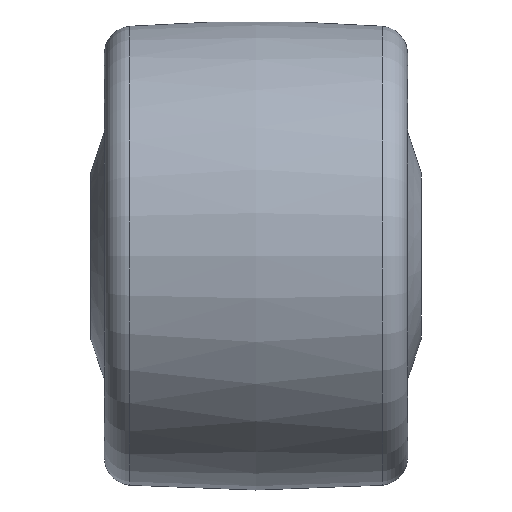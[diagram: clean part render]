
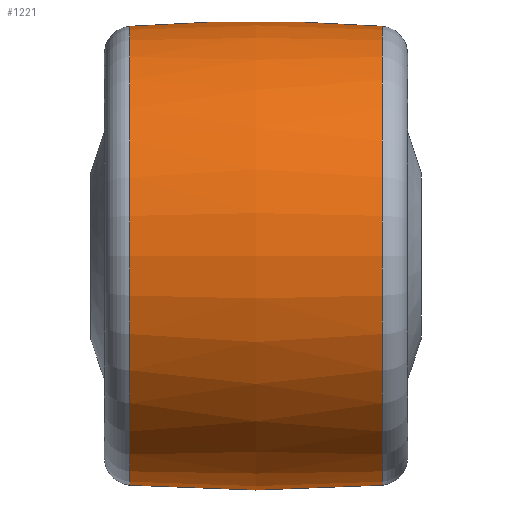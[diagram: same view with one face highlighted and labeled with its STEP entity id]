
A CAD part, front view. The second image highlights one B-rep face of the part: STEP entity #1221.
In plain terms, the highlighted free-form (B-spline) face has degree [2, 2] with [3, 9] control points.
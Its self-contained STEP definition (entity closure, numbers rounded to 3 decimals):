
#49=(
BOUNDED_SURFACE()
B_SPLINE_SURFACE(2,2,((#2152,#2153,#2154,#2155,#2156,#2157,#2158,#2159,
#2160),(#2161,#2162,#2163,#2164,#2165,#2166,#2167,#2168,#2169),(#2170,#2171,
#2172,#2173,#2174,#2175,#2176,#2177,#2178)),.UNSPECIFIED.,.F.,.T.,.F.)
B_SPLINE_SURFACE_WITH_KNOTS((3,3),(3,2,2,2,3),(-0.076,0.076),
(-3.142,-1.571,0.,1.571,3.142),
 .UNSPECIFIED.)
GEOMETRIC_REPRESENTATION_ITEM()
RATIONAL_B_SPLINE_SURFACE(((1.,0.707,1.,0.707,1.,
0.707,1.,0.707,1.),(0.997,0.705,
0.997,0.705,0.997,0.705,
0.997,0.705,0.997),(1.,0.707,
1.,0.707,1.,0.707,1.,0.707,1.)))
REPRESENTATION_ITEM('')
SURFACE()
);
#250=FACE_OUTER_BOUND('',#329,.T.);
#329=EDGE_LOOP('',(#951,#952,#953,#954,#955,#956));
#434=CIRCLE('',#1403,41.626);
#435=CIRCLE('',#1404,41.626);
#437=CIRCLE('',#1406,41.626);
#438=CIRCLE('',#1407,41.626);
#439=CIRCLE('',#1408,300.);
#570=VERTEX_POINT('',#2147);
#571=VERTEX_POINT('',#2148);
#572=VERTEX_POINT('',#2179);
#573=VERTEX_POINT('',#2180);
#726=EDGE_CURVE('',#570,#571,#434,.T.);
#727=EDGE_CURVE('',#571,#570,#435,.T.);
#729=EDGE_CURVE('',#572,#573,#437,.T.);
#730=EDGE_CURVE('',#573,#572,#438,.T.);
#731=EDGE_CURVE('',#573,#571,#439,.T.);
#951=ORIENTED_EDGE('',*,*,#729,.F.);
#952=ORIENTED_EDGE('',*,*,#730,.F.);
#953=ORIENTED_EDGE('',*,*,#731,.T.);
#954=ORIENTED_EDGE('',*,*,#727,.T.);
#955=ORIENTED_EDGE('',*,*,#726,.T.);
#956=ORIENTED_EDGE('',*,*,#731,.F.);
#1221=ADVANCED_FACE('',(#250),#49,.F.);
#1403=AXIS2_PLACEMENT_3D('',#2149,#1698,#1699);
#1404=AXIS2_PLACEMENT_3D('',#2150,#1700,#1701);
#1406=AXIS2_PLACEMENT_3D('',#2181,#1704,#1705);
#1407=AXIS2_PLACEMENT_3D('',#2182,#1706,#1707);
#1408=AXIS2_PLACEMENT_3D('',#2183,#1708,#1709);
#1698=DIRECTION('center_axis',(1.,0.,0.));
#1699=DIRECTION('ref_axis',(0.,0.,-1.));
#1700=DIRECTION('center_axis',(1.,0.,0.));
#1701=DIRECTION('ref_axis',(0.,0.,-1.));
#1704=DIRECTION('center_axis',(1.,0.,0.));
#1705=DIRECTION('ref_axis',(0.,0.,-1.));
#1706=DIRECTION('center_axis',(1.,0.,0.));
#1707=DIRECTION('ref_axis',(0.,0.,-1.));
#1708=DIRECTION('center_axis',(0.,-1.,0.));
#1709=DIRECTION('ref_axis',(0.,0.,
1.));
#2147=CARTESIAN_POINT('',(4.619,0.,-41.626));
#2148=CARTESIAN_POINT('',(4.619,0.,41.626));
#2149=CARTESIAN_POINT('Origin',(4.619,0.,0.));
#2150=CARTESIAN_POINT('Origin',(4.619,0.,0.));
#2152=CARTESIAN_POINT('Ctrl Pts',(4.619,0.,41.626));
#2153=CARTESIAN_POINT('Ctrl Pts',(4.619,-41.626,41.626));
#2154=CARTESIAN_POINT('Ctrl Pts',(4.619,-41.626,0.));
#2155=CARTESIAN_POINT('Ctrl Pts',(4.619,-41.626,-41.626));
#2156=CARTESIAN_POINT('Ctrl Pts',(4.619,0.,-41.626));
#2157=CARTESIAN_POINT('Ctrl Pts',(4.619,41.626,-41.626));
#2158=CARTESIAN_POINT('Ctrl Pts',(4.619,41.626,0.));
#2159=CARTESIAN_POINT('Ctrl Pts',(4.619,41.626,41.626));
#2160=CARTESIAN_POINT('Ctrl Pts',(4.619,0.,41.626));
#2161=CARTESIAN_POINT('Ctrl Pts',(27.5,0.,43.376));
#2162=CARTESIAN_POINT('Ctrl Pts',(27.5,-43.376,43.376));
#2163=CARTESIAN_POINT('Ctrl Pts',(27.5,-43.376,0.));
#2164=CARTESIAN_POINT('Ctrl Pts',(27.5,-43.376,-43.376));
#2165=CARTESIAN_POINT('Ctrl Pts',(27.5,0.,-43.376));
#2166=CARTESIAN_POINT('Ctrl Pts',(27.5,43.376,-43.376));
#2167=CARTESIAN_POINT('Ctrl Pts',(27.5,43.376,0.));
#2168=CARTESIAN_POINT('Ctrl Pts',(27.5,43.376,43.376));
#2169=CARTESIAN_POINT('Ctrl Pts',(27.5,0.,43.376));
#2170=CARTESIAN_POINT('Ctrl Pts',(50.381,0.,41.626));
#2171=CARTESIAN_POINT('Ctrl Pts',(50.381,-41.626,41.626));
#2172=CARTESIAN_POINT('Ctrl Pts',(50.381,-41.626,0.));
#2173=CARTESIAN_POINT('Ctrl Pts',(50.381,-41.626,-41.626));
#2174=CARTESIAN_POINT('Ctrl Pts',(50.381,0.,-41.626));
#2175=CARTESIAN_POINT('Ctrl Pts',(50.381,41.626,-41.626));
#2176=CARTESIAN_POINT('Ctrl Pts',(50.381,41.626,0.));
#2177=CARTESIAN_POINT('Ctrl Pts',(50.381,41.626,41.626));
#2178=CARTESIAN_POINT('Ctrl Pts',(50.381,0.,41.626));
#2179=CARTESIAN_POINT('',(50.381,0.,-41.626));
#2180=CARTESIAN_POINT('',(50.381,0.,41.626));
#2181=CARTESIAN_POINT('Origin',(50.381,0.,0.));
#2182=CARTESIAN_POINT('Origin',(50.381,0.,0.));
#2183=CARTESIAN_POINT('Origin',(27.5,0.,-257.5));
